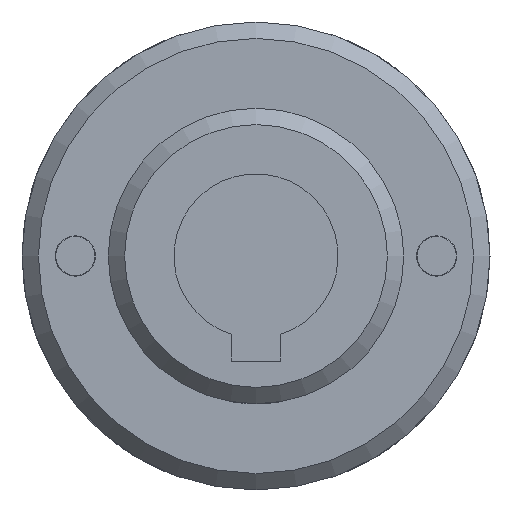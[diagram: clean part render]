
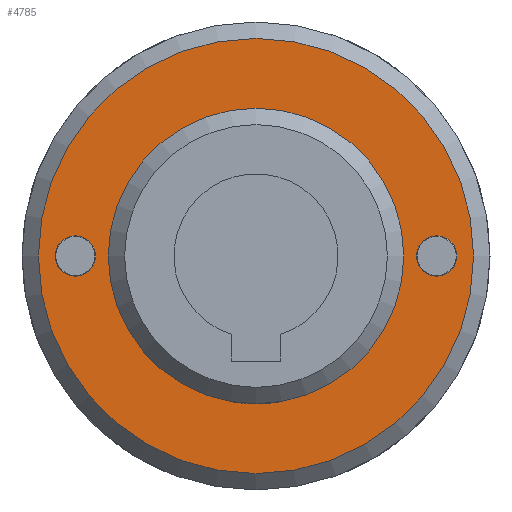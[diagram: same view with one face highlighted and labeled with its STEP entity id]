
A CAD part, left-side view. The second image highlights one B-rep face of the part: STEP entity #4785.
In plain terms, the highlighted planar face has unit normal (-1, 0, 0) as drawn and (0, 1, 0) by its records, which use the part's own axes.
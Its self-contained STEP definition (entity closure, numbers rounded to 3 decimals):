
#948=FACE_BOUND('',#1598,.T.);
#949=FACE_BOUND('',#1599,.T.);
#950=FACE_BOUND('',#1600,.T.);
#1253=FACE_OUTER_BOUND('',#1597,.T.);
#1597=EDGE_LOOP('',(#4353));
#1598=EDGE_LOOP('',(#4354));
#1599=EDGE_LOOP('',(#4355));
#1600=EDGE_LOOP('',(#4356));
#1953=CIRCLE('',#5631,18.);
#1954=CIRCLE('',#5634,26.5);
#1957=CIRCLE('',#5639,2.459);
#1958=CIRCLE('',#5640,2.459);
#2350=VERTEX_POINT('',#10040);
#2354=VERTEX_POINT('',#10087);
#2357=VERTEX_POINT('',#10097);
#2358=VERTEX_POINT('',#10099);
#3019=EDGE_CURVE('',#2350,#2350,#1953,.T.);
#3023=EDGE_CURVE('',#2354,#2354,#1954,.T.);
#3028=EDGE_CURVE('',#2357,#2357,#1957,.T.);
#3029=EDGE_CURVE('',#2358,#2358,#1958,.T.);
#4353=ORIENTED_EDGE('',*,*,#3023,.F.);
#4354=ORIENTED_EDGE('',*,*,#3019,.F.);
#4355=ORIENTED_EDGE('',*,*,#3028,.T.);
#4356=ORIENTED_EDGE('',*,*,#3029,.T.);
#4486=PLANE('',#5638);
#4785=ADVANCED_FACE('',(#1253,#948,#949,#950),#4486,.T.);
#5631=AXIS2_PLACEMENT_3D('',#10042,#7115,#7116);
#5634=AXIS2_PLACEMENT_3D('',#10088,#7121,#7122);
#5638=AXIS2_PLACEMENT_3D('',#10096,#7131,#7132);
#5639=AXIS2_PLACEMENT_3D('',#10098,#7133,#7134);
#5640=AXIS2_PLACEMENT_3D('',#10100,#7135,#7136);
#7115=DIRECTION('center_axis',(0.,1.,0.));
#7116=DIRECTION('ref_axis',(-1.,0.,0.));
#7121=DIRECTION('center_axis',(0.,-1.,0.));
#7122=DIRECTION('ref_axis',(1.,0.,0.));
#7131=DIRECTION('center_axis',(0.,1.,0.));
#7132=DIRECTION('ref_axis',(0.,0.,1.));
#7133=DIRECTION('center_axis',(0.,-1.,0.));
#7134=DIRECTION('ref_axis',(1.,0.,0.));
#7135=DIRECTION('center_axis',(0.,-1.,0.));
#7136=DIRECTION('ref_axis',(1.,0.,0.));
#10040=CARTESIAN_POINT('',(18.,7.,0.));
#10042=CARTESIAN_POINT('Origin',(0.,7.,0.));
#10087=CARTESIAN_POINT('',(-26.5,7.,0.));
#10088=CARTESIAN_POINT('Origin',(0.,7.,0.));
#10096=CARTESIAN_POINT('Origin',(-23.25,7.,0.));
#10097=CARTESIAN_POINT('',(-24.459,7.,0.));
#10098=CARTESIAN_POINT('Origin',(-22.,7.,0.));
#10099=CARTESIAN_POINT('',(19.542,7.,0.));
#10100=CARTESIAN_POINT('Origin',(22.,7.,0.));
